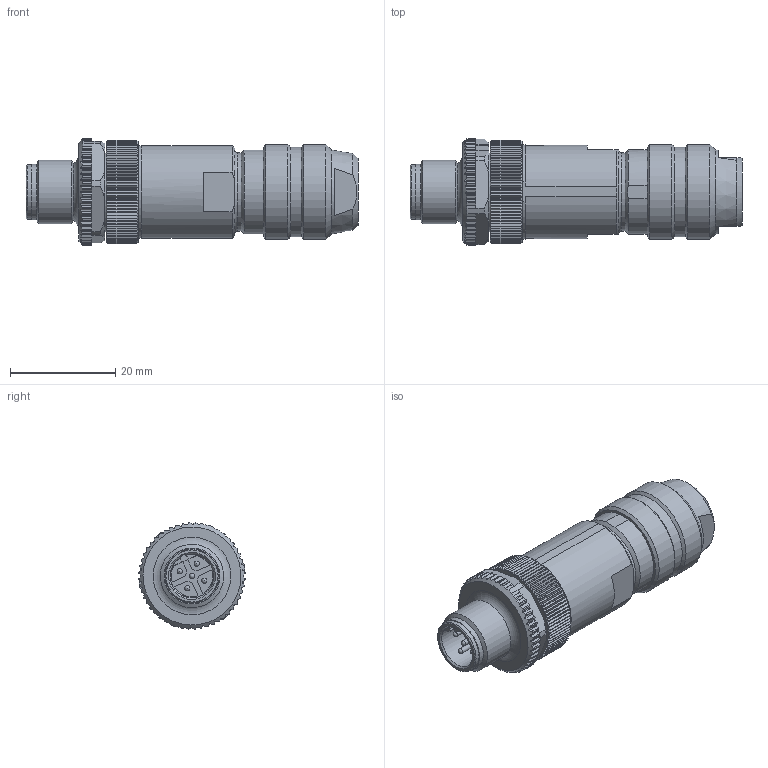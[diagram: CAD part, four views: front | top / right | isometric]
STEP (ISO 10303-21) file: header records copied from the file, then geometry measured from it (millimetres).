
FILE_DESCRIPTION(/* description */ (''),/* implementation_level */ '2;1');
FILE_NAME(/* name */ '99 1437 810 05 001_00.stp',/* time_stamp */ '2014-02-05T08:37:01+01:00',/* author */ (''),/* organization */ (''),/* preprocessor_version */ 'ST-DEVELOPER v14',/* originating_system */ 'SIEMENS PLM Software NX 8.0',/* authorisation */ '');
FILE_SCHEMA (('AUTOMOTIVE_DESIGN { 1 0 10303 214 3 1 1 1 }'));
Length unit declared in the file: millimetre
Products named in the file (1): cerl095C3E30ihm4
Bounding box: 62.99 x 20.17 x 20.17 mm (x, y, z)
Volume: 13409.4 mm3; surface area: 4689.2 mm2
Topology: 1 solids, 1 shells, 811 faces, 1992 edges, 1190 vertices
Faces by surface type: plane 356, cylinder 227, cone 221, sphere 5, torus 2
Full cylindrical faces by diameter (mm): 1 x5, 10.3 x1, 10.6 x1, 12 x1, 14.8 x1, 15 x1, 17 x1, 18 x2
Entity records: 25079 total; most frequent: CARTESIAN_POINT 7135, ORIENTED_EDGE 3878, DIRECTION 3534, EDGE_CURVE 1939, AXIS2_PLACEMENT_3D 1407, VERTEX_POINT 1171, EDGE_LOOP 850, ADVANCED_FACE 810
